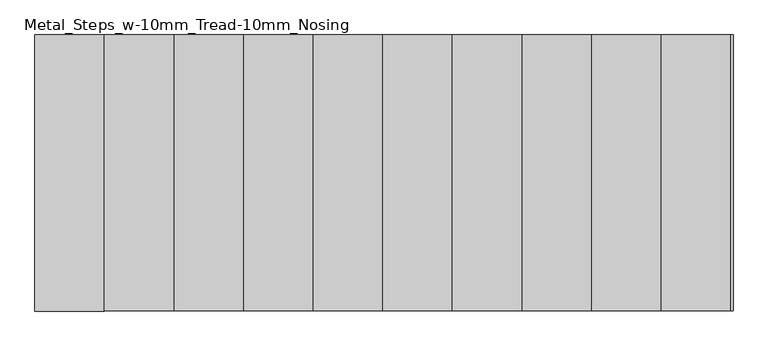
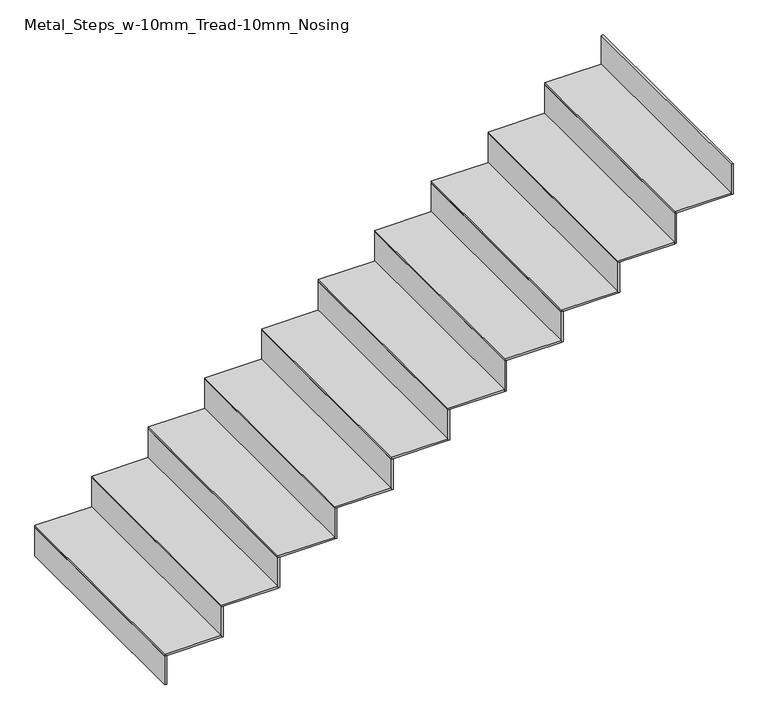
"""IFC4 building model written with IfcOpenShell, lengths in millimetres: stair flight geometry, Metal_Steps_w-10mm_Tread-10mm_Nosing."""

from ifc_helpers import new_model, si_unit, frame, origin, place, context, project, spatial, polyline, outline, extrude, source, transform, mapped, element, save


def metal_steps_w_10mm_tread_10mm_nosing_b8507e4e(model_context):
    return source(origin(), model_context, "Body", "SweptSolid", [
        extrude(outline(polyline([(-791.4958562, -4544.3473686), (-801.4958562, -4544.3473686), (-801.4958562, -3354.3473686), (-791.4958562, -3354.3473686), (-791.4958562, -4544.3473686)])), frame((0.0, 0.0, 7510.0), z_axis=(0.0, 0.0, 1.0), x_axis=(1.0, 0.0, 0.0)), (0.0, 0.0, 1.0), 160.4545455),
        extrude(outline(polyline([(-501.4958562, -3354.3473686), (-501.4958562, -4544.3473686), (-801.4958562, -4544.3473686), (-801.4958562, -3354.3473686), (-501.4958562, -3354.3473686)])), frame((0.0, 0.0, 7670.4545455), z_axis=(0.0, 0.0, 1.0), x_axis=(1.0, 0.0, 0.0)), (0.0, 0.0, 1.0), 10.0),
        extrude(outline(polyline([(-491.4958562, -4544.3473686), (-501.4958562, -4544.3473686), (-501.4958562, -3354.3473686), (-491.4958562, -3354.3473686), (-491.4958562, -4544.3473686)])), frame((0.0, 0.0, 7670.4545455), z_axis=(0.0, 0.0, 1.0), x_axis=(1.0, 0.0, 0.0)), (0.0, 0.0, 1.0), 170.4545455),
        extrude(outline(polyline([(-201.4958562, -3354.3473686), (-201.4958562, -4544.3473686), (-501.4958562, -4544.3473686), (-501.4958562, -3354.3473686), (-201.4958562, -3354.3473686)])), frame((0.0, 0.0, 7840.9090909), z_axis=(0.0, 0.0, 1.0), x_axis=(1.0, 0.0, 0.0)), (0.0, 0.0, 1.0), 10.0),
        extrude(outline(polyline([(-191.4958562, -4544.3473686), (-201.4958562, -4544.3473686), (-201.4958562, -3354.3473686), (-191.4958562, -3354.3473686), (-191.4958562, -4544.3473686)])), frame((0.0, 0.0, 7840.9090909), z_axis=(0.0, 0.0, 1.0), x_axis=(1.0, 0.0, 0.0)), (0.0, 0.0, 1.0), 170.4545455),
        extrude(outline(polyline([(98.5041438, -3354.3473686), (98.5041438, -4544.3473686), (-201.4958562, -4544.3473686), (-201.4958562, -3354.3473686), (98.5041438, -3354.3473686)])), frame((0.0, 0.0, 8011.3636364), z_axis=(0.0, 0.0, 1.0), x_axis=(1.0, 0.0, 0.0)), (0.0, 0.0, 1.0), 10.0),
        extrude(outline(polyline([(108.5041438, -4544.3473686), (98.5041438, -4544.3473686), (98.5041438, -3354.3473686), (108.5041438, -3354.3473686), (108.5041438, -4544.3473686)])), frame((0.0, 0.0, 8011.3636364), z_axis=(0.0, 0.0, 1.0), x_axis=(1.0, 0.0, 0.0)), (0.0, 0.0, 1.0), 170.4545455),
        extrude(outline(polyline([(398.5041438, -3354.3473686), (398.5041438, -4544.3473686), (98.5041438, -4544.3473686), (98.5041438, -3354.3473686), (398.5041438, -3354.3473686)])), frame((0.0, 0.0, 8181.8181818), z_axis=(0.0, 0.0, 1.0), x_axis=(1.0, 0.0, 0.0)), (0.0, 0.0, 1.0), 10.0),
        extrude(outline(polyline([(408.5041438, -4544.3473686), (398.5041438, -4544.3473686), (398.5041438, -3354.3473686), (408.5041438, -3354.3473686), (408.5041438, -4544.3473686)])), frame((0.0, 0.0, 8181.8181818), z_axis=(0.0, 0.0, 1.0), x_axis=(1.0, 0.0, 0.0)), (0.0, 0.0, 1.0), 170.4545455),
        extrude(outline(polyline([(698.5041438, -3354.3473686), (698.5041438, -4544.3473686), (398.5041438, -4544.3473686), (398.5041438, -3354.3473686), (698.5041438, -3354.3473686)])), frame((0.0, 0.0, 8352.2727273), z_axis=(0.0, 0.0, 1.0), x_axis=(1.0, 0.0, 0.0)), (0.0, 0.0, 1.0), 10.0),
        extrude(outline(polyline([(708.5041438, -4544.3473686), (698.5041438, -4544.3473686), (698.5041438, -3354.3473686), (708.5041438, -3354.3473686), (708.5041438, -4544.3473686)])), frame((0.0, 0.0, 8352.2727273), z_axis=(0.0, 0.0, 1.0), x_axis=(1.0, 0.0, 0.0)), (0.0, 0.0, 1.0), 170.4545455),
        extrude(outline(polyline([(998.5041438, -3354.3473686), (998.5041438, -4544.3473686), (698.5041438, -4544.3473686), (698.5041438, -3354.3473686), (998.5041438, -3354.3473686)])), frame((0.0, 0.0, 8522.7272727), z_axis=(0.0, 0.0, 1.0), x_axis=(1.0, 0.0, 0.0)), (0.0, 0.0, 1.0), 10.0),
        extrude(outline(polyline([(1008.5041438, -4544.3473686), (998.5041438, -4544.3473686), (998.5041438, -3354.3473686), (1008.5041438, -3354.3473686), (1008.5041438, -4544.3473686)])), frame((0.0, 0.0, 8522.7272727), z_axis=(0.0, 0.0, 1.0), x_axis=(1.0, 0.0, 0.0)), (0.0, 0.0, 1.0), 170.4545455),
        extrude(outline(polyline([(1298.5041438, -3354.3473686), (1298.5041438, -4544.3473686), (998.5041438, -4544.3473686), (998.5041438, -3354.3473686), (1298.5041438, -3354.3473686)])), frame((0.0, 0.0, 8693.1818182), z_axis=(0.0, 0.0, 1.0), x_axis=(1.0, 0.0, 0.0)), (0.0, 0.0, 1.0), 10.0),
        extrude(outline(polyline([(1308.5041438, -4544.3473686), (1298.5041438, -4544.3473686), (1298.5041438, -3354.3473686), (1308.5041438, -3354.3473686), (1308.5041438, -4544.3473686)])), frame((0.0, 0.0, 8693.1818182), z_axis=(0.0, 0.0, 1.0), x_axis=(1.0, 0.0, 0.0)), (0.0, 0.0, 1.0), 170.4545455),
        extrude(outline(polyline([(1598.5041438, -3354.3473686), (1598.5041438, -4544.3473686), (1298.5041438, -4544.3473686), (1298.5041438, -3354.3473686), (1598.5041438, -3354.3473686)])), frame((0.0, 0.0, 8863.6363636), z_axis=(0.0, 0.0, 1.0), x_axis=(1.0, 0.0, 0.0)), (0.0, 0.0, 1.0), 10.0),
        extrude(outline(polyline([(1608.5041438, -4544.3473686), (1598.5041438, -4544.3473686), (1598.5041438, -3354.3473686), (1608.5041438, -3354.3473686), (1608.5041438, -4544.3473686)])), frame((0.0, 0.0, 8863.6363636), z_axis=(0.0, 0.0, 1.0), x_axis=(1.0, 0.0, 0.0)), (0.0, 0.0, 1.0), 170.4545455),
        extrude(outline(polyline([(1898.5041438, -3354.3473686), (1898.5041438, -4544.3473686), (1598.5041438, -4544.3473686), (1598.5041438, -3354.3473686), (1898.5041438, -3354.3473686)])), frame((0.0, 0.0, 9034.0909091), z_axis=(0.0, 0.0, 1.0), x_axis=(1.0, 0.0, 0.0)), (0.0, 0.0, 1.0), 10.0),
        extrude(outline(polyline([(1908.5041438, -4544.3473686), (1898.5041438, -4544.3473686), (1898.5041438, -3354.3473686), (1908.5041438, -3354.3473686), (1908.5041438, -4544.3473686)])), frame((0.0, 0.0, 9034.0909091), z_axis=(0.0, 0.0, 1.0), x_axis=(1.0, 0.0, 0.0)), (0.0, 0.0, 1.0), 170.4545455),
        extrude(outline(polyline([(2198.5041438, -3354.3473686), (2198.5041438, -4544.3473686), (1898.5041438, -4544.3473686), (1898.5041438, -3354.3473686), (2198.5041438, -3354.3473686)])), frame((0.0, 0.0, 9204.5454545), z_axis=(0.0, 0.0, 1.0), x_axis=(1.0, 0.0, 0.0)), (0.0, 0.0, 1.0), 10.0),
        extrude(outline(polyline([(2208.5041438, -4544.3473686), (2198.5041438, -4544.3473686), (2198.5041438, -3354.3473686), (2208.5041438, -3354.3473686), (2208.5041438, -4544.3473686)])), frame((0.0, 0.0, 9204.5454545), z_axis=(0.0, 0.0, 1.0), x_axis=(1.0, 0.0, 0.0)), (0.0, 0.0, 1.0), 170.4545455),
    ])


if __name__ == "__main__":
    model = new_model("IFC4")
    model_context = context("Model", 3, world=origin())
    ifc_project = project(units=[si_unit("LENGTHUNIT", "METRE", prefix="MILLI")], contexts=[model_context])
    site = spatial("IfcSite", under=ifc_project)
    building = spatial("IfcBuilding", under=site)
    placement = place(None, origin())
    metal_steps_w_10mm_tread_10mm_nosing_shape = metal_steps_w_10mm_tread_10mm_nosing_b8507e4e(model_context)
    element("IfcStairFlight", 1, ObjectType="Metal_Steps_w-10mm_Tread-10mm_Nosing", at=placement, inside=building, context=model_context, shape_type="MappedRepresentation", body=[
        mapped(metal_steps_w_10mm_tread_10mm_nosing_shape, transform((0.0, 0.0, 0.0), x_axis=(1.0, 0.0, 0.0), y_axis=(0.0, 1.0, 0.0), z_axis=(0.0, 0.0, 1.0))),
    ])
    save(model, "model.ifc")
